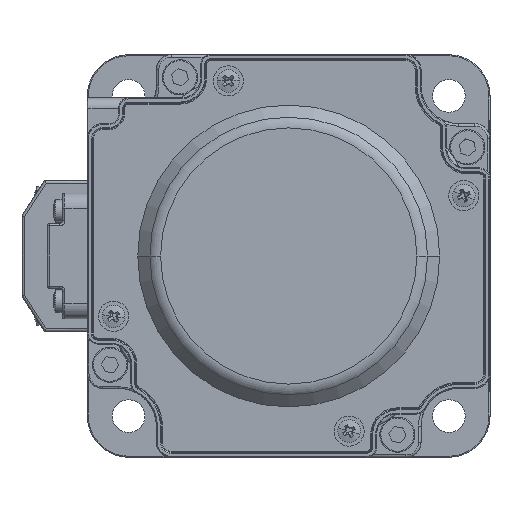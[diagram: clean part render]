
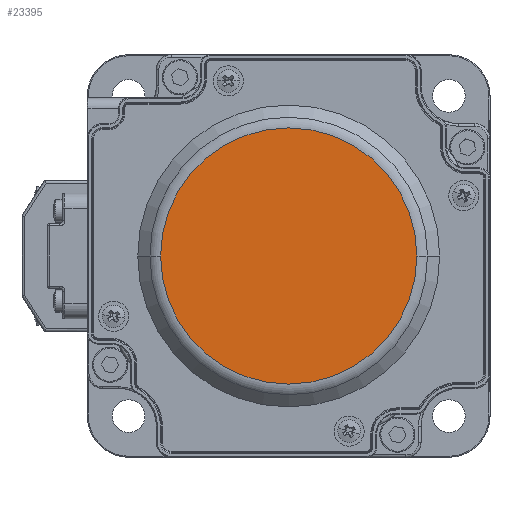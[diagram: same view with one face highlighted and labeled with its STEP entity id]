
A CAD part, left-side view. The second image highlights one B-rep face of the part: STEP entity #23395.
In plain terms, the highlighted planar face has unit normal (-1, 0, 0).
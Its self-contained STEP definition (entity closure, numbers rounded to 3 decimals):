
#2844 = ORIENTED_EDGE ( 'NONE', *, *, #34582, .T. ) ;
#6668 = CARTESIAN_POINT ( 'NONE',  ( -105.7, -25.457, 0. ) ) ;
#7786 = CIRCLE ( 'NONE', #46533, 25.457 ) ;
#8183 = ORIENTED_EDGE ( 'NONE', *, *, #19802, .T. ) ;
#9861 = VERTEX_POINT ( 'NONE', #6668 ) ;
#12614 = DIRECTION ( 'NONE',  ( 0., 1., 0. ) ) ;
#13720 = CARTESIAN_POINT ( 'NONE',  ( -105.7, 0., 0. ) ) ;
#15076 = DIRECTION ( 'NONE',  ( -1., 0., 0. ) ) ;
#17813 = VERTEX_POINT ( 'NONE', #26286 ) ;
#19802 = EDGE_CURVE ( 'NONE', #9861, #17813, #7786, .T. ) ;
#20482 = CARTESIAN_POINT ( 'NONE',  ( -105.7, 0., 0. ) ) ;
#20957 = DIRECTION ( 'NONE',  ( -1., 0., 0. ) ) ;
#23395 = ADVANCED_FACE ( 'NONE', ( #33988 ), #30376, .F. ) ;
#24012 = DIRECTION ( 'NONE',  ( 1., 0., 0. ) ) ;
#26077 = DIRECTION ( 'NONE',  ( 0., 1., 0. ) ) ;
#26286 = CARTESIAN_POINT ( 'NONE',  ( -105.7, 25.457, 0. ) ) ;
#27567 = DIRECTION ( 'NONE',  ( 0., 1., 0. ) ) ;
#30376 = PLANE ( 'NONE',  #35773 ) ;
#33988 = FACE_OUTER_BOUND ( 'NONE', #45796, .T. ) ;
#34467 = CIRCLE ( 'NONE', #45110, 25.457 ) ;
#34582 = EDGE_CURVE ( 'NONE', #17813, #9861, #34467, .T. ) ;
#35773 = AXIS2_PLACEMENT_3D ( 'NONE', #13720, #24012, #27567 ) ;
#37034 = CARTESIAN_POINT ( 'NONE',  ( -105.7, 0., 0. ) ) ;
#45110 = AXIS2_PLACEMENT_3D ( 'NONE', #37034, #15076, #26077 ) ;
#45796 = EDGE_LOOP ( 'NONE', ( #2844, #8183 ) ) ;
#46533 = AXIS2_PLACEMENT_3D ( 'NONE', #20482, #20957, #12614 ) ;
